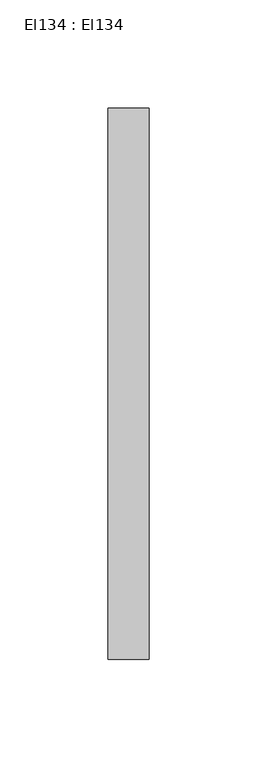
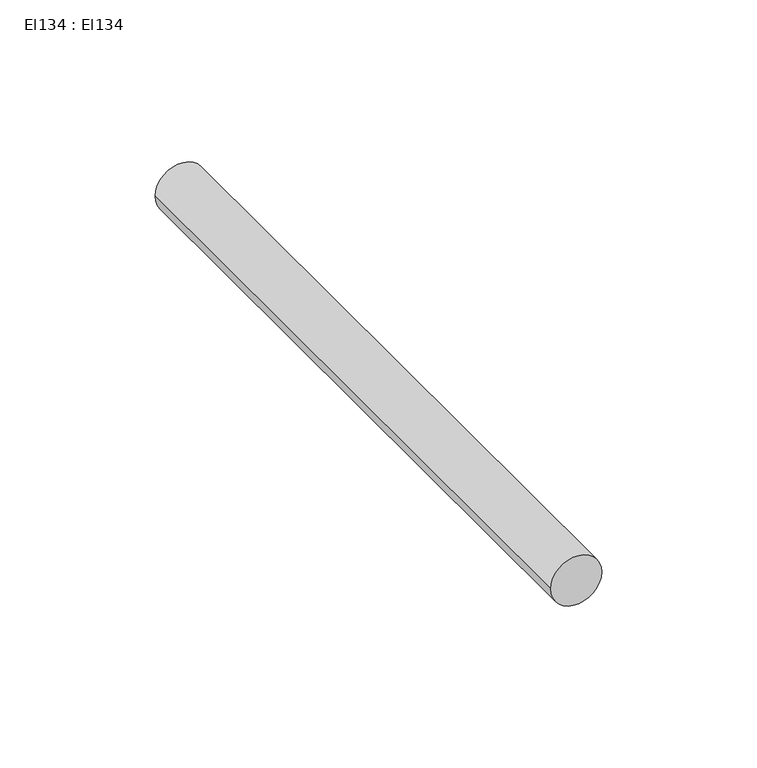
"""IFC4 building model written with IfcOpenShell, lengths in millimetres: cable carrier segment geometry, El134 : El134."""

from ifc_helpers import new_model, si_unit, point, frame, frame_2d, origin, place, context, project, spatial, circle_curve, trimmed, segment, composite_curve, outline, extrude, source, transform, mapped, element, save


def el134_el134_53319225(model_context):
    return source(origin(), model_context, "Body", "SweptSolid", [
        extrude(outline(composite_curve([segment(trimmed(circle_curve(frame_2d((300.0, 26330.0)), 9.5), [point((300.0, 26320.5))], [point((300.0, 26339.5))], False, "CARTESIAN"), True, "CONTINUOUS"), segment(trimmed(circle_curve(frame_2d((300.0, 26330.0)), 9.5), [point((300.0, 26339.5))], [point((300.0, 26320.5))], False, "CARTESIAN"), True, "CONTINUOUS")], self_intersect=False)), frame((0.0, 10286.82, 0.0), z_axis=(0.0, 1.0, 0.0), x_axis=(0.0, 0.0, 1.0)), (0.0, 0.0, 1.0), 254.96),
    ])


if __name__ == "__main__":
    model = new_model("IFC4")
    model_context = context("Model", 3, world=origin())
    ifc_project = project(units=[si_unit("LENGTHUNIT", "METRE", prefix="MILLI")], contexts=[model_context])
    site = spatial("IfcSite", under=ifc_project)
    building = spatial("IfcBuilding", under=site)
    placement = place(None, origin())
    el134_el134_shape = el134_el134_53319225(model_context)
    element("IfcCableCarrierSegment", 1, ObjectType="El134 : El134", at=placement, inside=building, context=model_context, shape_type="MappedRepresentation", body=[
        mapped(el134_el134_shape, transform((0.0, 0.0, 0.0), x_axis=(1.0, 0.0, 0.0), y_axis=(0.0, 1.0, 0.0), z_axis=(0.0, 0.0, 1.0))),
    ])
    save(model, "model.ifc")
